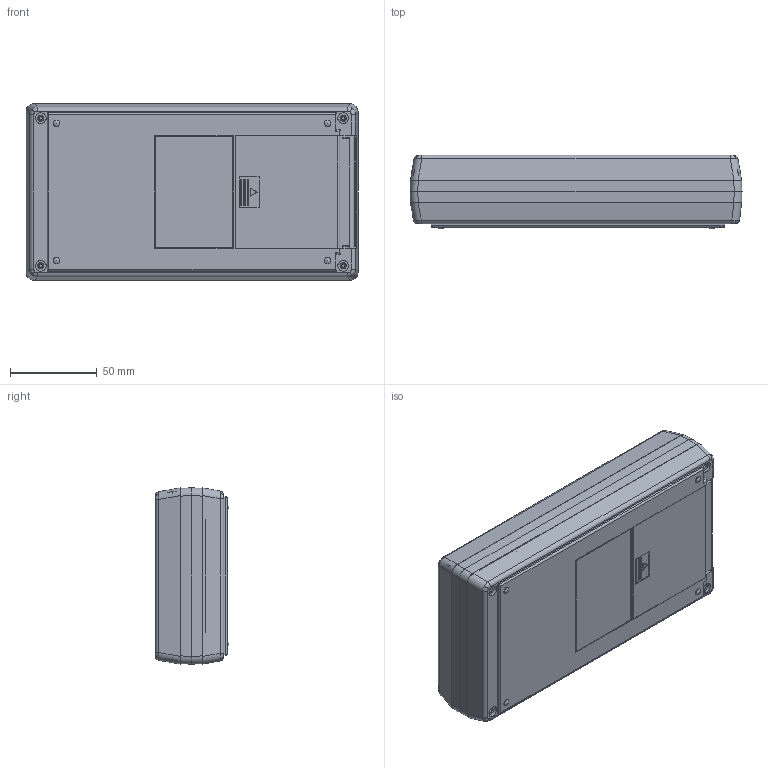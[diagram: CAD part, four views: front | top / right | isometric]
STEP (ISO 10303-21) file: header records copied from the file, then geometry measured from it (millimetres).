
FILE_DESCRIPTION (( 'STEP AP214' ), '1' );
FILE_NAME ('100-41-4A-E-F.STEP', '2019-11-30T00:05:18', ( 'Rudy' ), ( '' ), 'SwSTEP 2.0', 'SolidWorks 2014', '' );
FILE_SCHEMA (( 'AUTOMOTIVE_DESIGN' ));
Length unit declared in the file: inch
Products named in the file (5): 4AAdoor; 100-06 EXPANDER; 100-04-flush Top; 100-01 BOT-4AA; 100-41-4A-E-F
Assembly tree (4 placements, depth 2):
  100-41-4A-E-F
    100-01 BOT-4AA
    100-04-flush Top
    100-06 EXPANDER
    4AAdoor
Bounding box: 191 x 42.4 x 101.4 mm (x, y, z)
Volume: 160434.7 mm3; surface area: 147185.3 mm2
Topology: 4 solids, 4 shells, 1004 faces, 2707 edges, 1706 vertices
Faces by surface type: plane 638, cylinder 264, bspline 44, cone 42, torus 12, sphere 4
Entity records: 32566 total; most frequent: CARTESIAN_POINT 8034, ORIENTED_EDGE 5334, DIRECTION 4678, EDGE_CURVE 2667, VECTOR 1962, LINE 1962, VERTEX_POINT 1698, AXIS2_PLACEMENT_3D 1358
